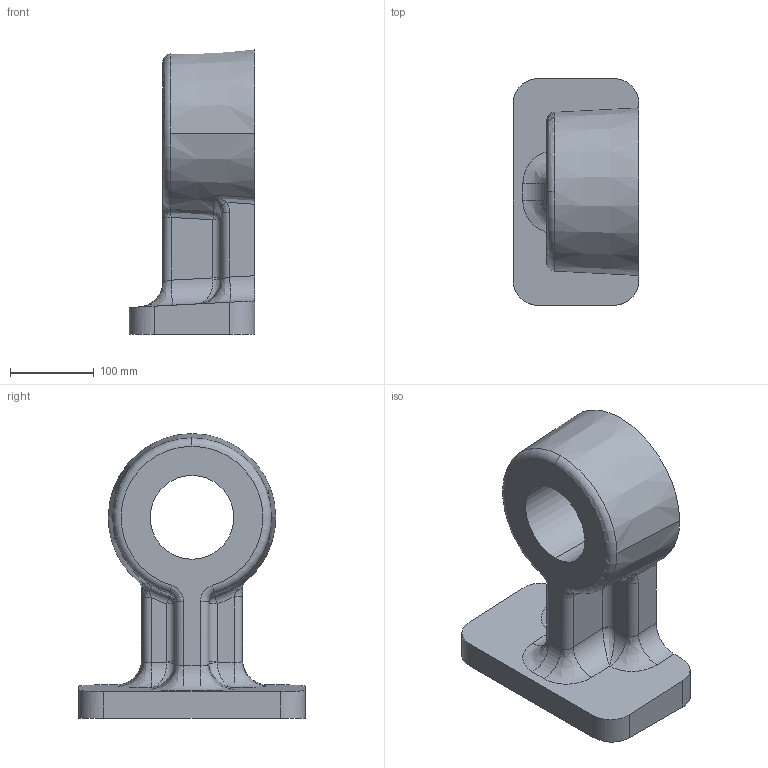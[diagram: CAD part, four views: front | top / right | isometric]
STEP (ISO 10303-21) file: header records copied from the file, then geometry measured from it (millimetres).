
FILE_DESCRIPTION (( 'STEP AP214' ), '1' );
FILE_NAME ('Lagerbock.STEP', '2014-06-13T12:25:41', ( '' ), ( '' ), 'SwSTEP 2.0', 'SolidWorks 2013', '' );
FILE_SCHEMA (( 'AUTOMOTIVE_DESIGN' ));
Length unit declared in the file: millimetre
Products named in the file (1): Lagerbock
Bounding box: 150 x 270.58 x 340 mm (x, y, z)
Volume: 4704742.5 mm3; surface area: 280521.5 mm2
Topology: 1 solids, 1 shells, 60 faces, 149 edges, 85 vertices
Faces by surface type: cylinder 19, bspline 19, plane 13, torus 4, cone 3, sphere 2
Entity records: 2602 total; most frequent: CARTESIAN_POINT 1335, ORIENTED_EDGE 286, DIRECTION 230, EDGE_CURVE 143, AXIS2_PLACEMENT_3D 91, VERTEX_POINT 85, EDGE_LOOP 62, ADVANCED_FACE 60
